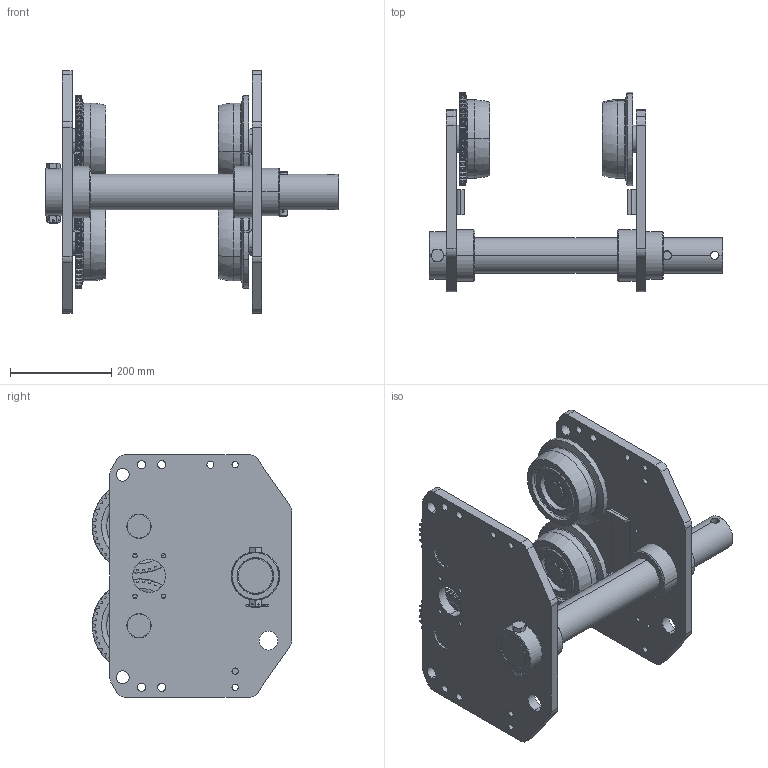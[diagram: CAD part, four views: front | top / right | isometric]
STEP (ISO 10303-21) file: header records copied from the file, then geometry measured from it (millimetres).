
FILE_DESCRIPTION (( 'STEP AP214' ), '1' );
FILE_NAME ('PTF080.STEP', '2026-08-17T12:49:06', ( '' ), ( '' ), 'SwSTEP 2.0', 'SolidWorks 2026', '' );
FILE_SCHEMA (( 'AUTOMOTIVE_DESIGN' ));
Length unit declared in the file: inch
Products named in the file (22): T3G1101075; T3G1102075; basic internal retaining ring_am_J1SR000-00090; PTF080; T3GA1005111; T3GA1009102; T3G154075_T3G154075; MS164075; M6SE100S9181; 6308Z Bearing; T3GA1009101; MS161100; MS104075; T3GA1009111; M6SE100S9113; T3GA1009118; 9009436_9009436; T3GA1009112; M6SE100S9114; T3GA1009103; T3GB1005112; 9047140_9047140
Assembly tree (36 placements, depth 3):
  PTF080
    T3GB1005112
      T3GA1009112
      T3GA1009118
      M6SE100S9114
      T3GA1009103  x2
    T3GA1005111
      T3GA1009111
      M6SE100S9113
      T3GA1009118
      T3GA1009103  x2
    T3G1102075  x2
      T3GA1009102
      6308Z Bearing
      basic internal retaining ring_am_J1SR000-00090
    MS104075  x4
    9047140_9047140  x4
    MS161100
    MS164075
    9009436_9009436  x2
    T3G1101075  x2
      T3GA1009101
      6308Z Bearing
      basic internal retaining ring_am_J1SR000-00090
    T3G154075_T3G154075
    M6SE100S9181
Bounding box: 580 x 394.52 x 480 mm (x, y, z)
Volume: 11993474.4 mm3; surface area: 1681887.5 mm2
Topology: 32 solids, 48 shells, 3228 faces, 8770 edges, 5792 vertices
Faces by surface type: plane 1360, cylinder 1224, bspline 398, cone 142, torus 104
Entity records: 51014 total; most frequent: CARTESIAN_POINT 18532, ORIENTED_EDGE 7114, DIRECTION 6033, EDGE_CURVE 3559, AXIS2_PLACEMENT_3D 2352, VERTEX_POINT 2331, EDGE_LOOP 1462, VECTOR 1329
